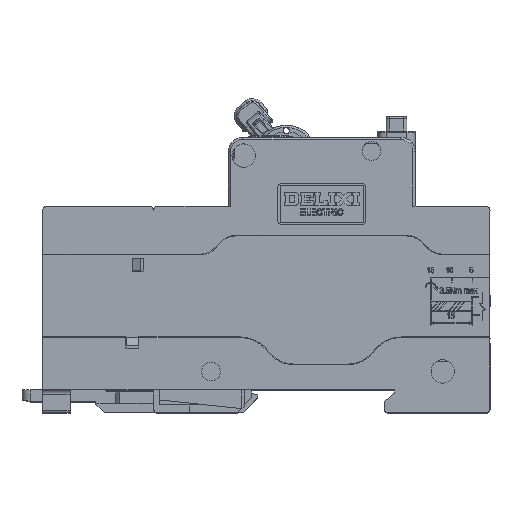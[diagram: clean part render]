
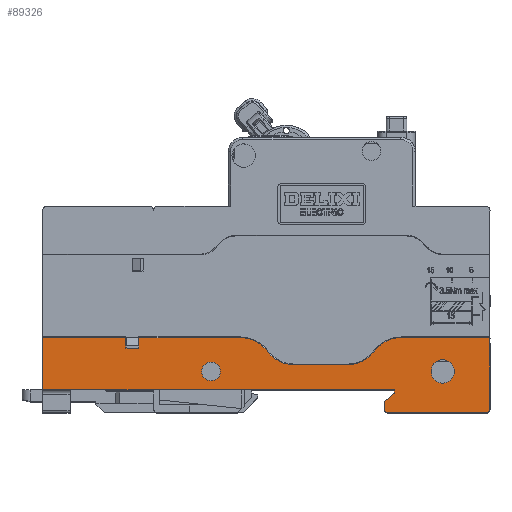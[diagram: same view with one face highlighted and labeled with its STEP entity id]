
A CAD part, top view. The second image highlights one B-rep face of the part: STEP entity #89326.
In plain terms, the highlighted planar face has unit normal (0, 0, 1).
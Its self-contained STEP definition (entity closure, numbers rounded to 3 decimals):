
#5563=DIRECTION('',(0.,-1.,0.));
#5564=VECTOR('',#5563,0.8);
#5565=CARTESIAN_POINT('',(85.367,5.5,0.));
#5566=LINE('',#5565,#5564);
#5583=DIRECTION('',(-1.,0.,0.));
#5584=VECTOR('',#5583,84.2);
#5585=CARTESIAN_POINT('',(85.367,5.5,0.));
#5586=LINE('',#5585,#5584);
#5587=DIRECTION('',(0.,1.,0.));
#5588=VECTOR('',#5587,12.5);
#5589=CARTESIAN_POINT('',(1.167,5.5,0.));
#5590=LINE('',#5589,#5588);
#5591=DIRECTION('',(1.,0.,0.));
#5592=VECTOR('',#5591,19.9);
#5593=CARTESIAN_POINT('',(1.167,18.,0.));
#5594=LINE('',#5593,#5592);
#5595=DIRECTION('',(1.,0.,0.));
#5596=VECTOR('',#5595,24.326);
#5597=CARTESIAN_POINT('',(24.167,18.,0.));
#5598=LINE('',#5597,#5596);
#5599=CARTESIAN_POINT('',(48.493,10.,0.));
#5600=DIRECTION('',(0.,0.,-1.));
#5601=DIRECTION('',(0.,1.,0.));
#5602=AXIS2_PLACEMENT_3D('',#5599,#5600,#5601);
#5604=CARTESIAN_POINT('',(61.367,19.5,0.));
#5605=DIRECTION('',(0.,0.,1.));
#5606=DIRECTION('',(-0.805,-0.594,0.));
#5607=AXIS2_PLACEMENT_3D('',#5604,#5605,#5606);
#5609=DIRECTION('',(1.,0.,0.));
#5610=VECTOR('',#5609,12.726);
#5611=CARTESIAN_POINT('',(61.367,11.5,0.));
#5612=LINE('',#5611,#5610);
#5613=CARTESIAN_POINT('',(74.093,19.5,0.));
#5614=DIRECTION('',(0.,0.,1.));
#5615=DIRECTION('',(0.,-1.,0.));
#5616=AXIS2_PLACEMENT_3D('',#5613,#5614,#5615);
#5618=CARTESIAN_POINT('',(86.967,10.,0.));
#5619=DIRECTION('',(0.,0.,-1.));
#5620=DIRECTION('',(-0.805,0.594,0.));
#5621=AXIS2_PLACEMENT_3D('',#5618,#5619,#5620);
#5623=DIRECTION('',(1.,0.,0.));
#5624=VECTOR('',#5623,21.3);
#5625=CARTESIAN_POINT('',(86.967,18.,0.));
#5626=LINE('',#5625,#5624);
#5627=DIRECTION('',(0.,-1.,0.));
#5628=VECTOR('',#5627,17.);
#5629=CARTESIAN_POINT('',(108.267,18.,0.));
#5630=LINE('',#5629,#5628);
#5631=CARTESIAN_POINT('',(107.267,1.,0.));
#5632=DIRECTION('',(0.,0.,-1.));
#5633=DIRECTION('',(1.,0.,0.));
#5634=AXIS2_PLACEMENT_3D('',#5631,#5632,#5633);
#5636=DIRECTION('',(-1.,0.,0.));
#5637=VECTOR('',#5636,23.3);
#5638=CARTESIAN_POINT('',(107.267,0.,0.));
#5639=LINE('',#5638,#5637);
#5640=CARTESIAN_POINT('',(83.967,1.,0.));
#5641=DIRECTION('',(0.,0.,-1.));
#5642=DIRECTION('',(0.,-1.,0.));
#5643=AXIS2_PLACEMENT_3D('',#5640,#5641,#5642);
#5645=DIRECTION('',(0.,1.,0.));
#5646=VECTOR('',#5645,1.686);
#5647=CARTESIAN_POINT('',(82.967,1.,0.));
#5648=LINE('',#5647,#5646);
#5649=DIRECTION('',(0.766,0.643,0.));
#5650=VECTOR('',#5649,3.133);
#5651=CARTESIAN_POINT('',(82.967,2.686,0.));
#5652=LINE('',#5651,#5650);
#5653=CARTESIAN_POINT('',(96.967,9.9,0.));
#5654=DIRECTION('',(0.,0.,1.));
#5655=DIRECTION('',(1.,0.,0.));
#5656=AXIS2_PLACEMENT_3D('',#5653,#5654,#5655);
#5658=CARTESIAN_POINT('',(96.967,9.9,0.));
#5659=DIRECTION('',(0.,0.,1.));
#5660=DIRECTION('',(-1.,0.,0.));
#5661=AXIS2_PLACEMENT_3D('',#5658,#5659,#5660);
#5663=CARTESIAN_POINT('',(41.467,9.9,0.));
#5664=DIRECTION('',(0.,0.,1.));
#5665=DIRECTION('',(1.,0.,0.));
#5666=AXIS2_PLACEMENT_3D('',#5663,#5664,#5665);
#5668=CARTESIAN_POINT('',(41.467,9.9,0.));
#5669=DIRECTION('',(0.,0.,1.));
#5670=DIRECTION('',(-1.,0.,0.));
#5671=AXIS2_PLACEMENT_3D('',#5668,#5669,#5670);
#25051=DIRECTION('',(0.,-1.,0.));
#25052=VECTOR('',#25051,2.5);
#25053=CARTESIAN_POINT('',(24.167,18.,0.));
#25054=LINE('',#25053,#25052);
#25071=DIRECTION('',(0.,1.,0.));
#25072=VECTOR('',#25071,2.5);
#25073=CARTESIAN_POINT('',(21.067,15.5,0.));
#25074=LINE('',#25073,#25072);
#25095=DIRECTION('',(-1.,0.,0.));
#25096=VECTOR('',#25095,3.1);
#25097=CARTESIAN_POINT('',(24.167,15.5,0.));
#25098=LINE('',#25097,#25096);
#66204=CARTESIAN_POINT('',(48.493,18.,0.));
#66205=CARTESIAN_POINT('',(54.93,14.75,0.));
#66206=VERTEX_POINT('',#66204);
#66207=VERTEX_POINT('',#66205);
#66208=CARTESIAN_POINT('',(61.367,11.5,0.));
#66209=VERTEX_POINT('',#66208);
#66210=CARTESIAN_POINT('',(74.093,11.5,0.));
#66211=VERTEX_POINT('',#66210);
#66212=CARTESIAN_POINT('',(80.53,14.75,0.));
#66213=VERTEX_POINT('',#66212);
#66214=CARTESIAN_POINT('',(86.967,18.,0.));
#66215=VERTEX_POINT('',#66214);
#66216=CARTESIAN_POINT('',(108.267,18.,0.));
#66217=VERTEX_POINT('',#66216);
#66218=CARTESIAN_POINT('',(108.267,1.,0.));
#66219=VERTEX_POINT('',#66218);
#66220=CARTESIAN_POINT('',(107.267,0.,0.));
#66221=VERTEX_POINT('',#66220);
#66222=CARTESIAN_POINT('',(83.967,0.,0.));
#66223=VERTEX_POINT('',#66222);
#66224=CARTESIAN_POINT('',(82.967,1.,0.));
#66225=VERTEX_POINT('',#66224);
#66226=CARTESIAN_POINT('',(82.967,2.686,0.));
#66227=VERTEX_POINT('',#66226);
#66228=CARTESIAN_POINT('',(85.367,4.7,0.));
#66229=VERTEX_POINT('',#66228);
#66230=CARTESIAN_POINT('',(85.367,5.5,0.));
#66231=VERTEX_POINT('',#66230);
#66232=CARTESIAN_POINT('',(99.767,9.9,0.));
#66233=CARTESIAN_POINT('',(94.167,9.9,0.));
#66234=VERTEX_POINT('',#66232);
#66235=VERTEX_POINT('',#66233);
#66236=CARTESIAN_POINT('',(43.717,9.9,0.));
#66237=CARTESIAN_POINT('',(39.217,9.9,0.));
#66238=VERTEX_POINT('',#66236);
#66239=VERTEX_POINT('',#66237);
#68547=CARTESIAN_POINT('',(1.167,5.5,0.));
#68548=VERTEX_POINT('',#68547);
#69001=CARTESIAN_POINT('',(24.167,18.,0.));
#69002=VERTEX_POINT('',#69001);
#69095=CARTESIAN_POINT('',(1.167,18.,0.));
#69096=VERTEX_POINT('',#69095);
#69097=CARTESIAN_POINT('',(21.067,18.,0.));
#69098=VERTEX_POINT('',#69097);
#69099=CARTESIAN_POINT('',(21.067,15.5,0.));
#69100=VERTEX_POINT('',#69099);
#69101=CARTESIAN_POINT('',(24.167,15.5,0.));
#69102=VERTEX_POINT('',#69101);
#89272=CARTESIAN_POINT('',(73.867,58.5,0.));
#89273=DIRECTION('',(0.,0.,1.));
#89274=DIRECTION('',(1.,0.,0.));
#89275=AXIS2_PLACEMENT_3D('',#89272,#89273,#89274);
#89276=PLANE('',#89275);
#89277=ORIENTED_EDGE('',*,*,#84295,.T.);
#89279=ORIENTED_EDGE('',*,*,#89278,.T.);
#89281=ORIENTED_EDGE('',*,*,#89280,.T.);
#89283=ORIENTED_EDGE('',*,*,#89282,.F.);
#89285=ORIENTED_EDGE('',*,*,#89284,.F.);
#89287=ORIENTED_EDGE('',*,*,#89286,.F.);
#89289=ORIENTED_EDGE('',*,*,#89288,.T.);
#89291=ORIENTED_EDGE('',*,*,#89290,.T.);
#89293=ORIENTED_EDGE('',*,*,#89292,.T.);
#89295=ORIENTED_EDGE('',*,*,#89294,.T.);
#89297=ORIENTED_EDGE('',*,*,#89296,.T.);
#89299=ORIENTED_EDGE('',*,*,#89298,.T.);
#89301=ORIENTED_EDGE('',*,*,#89300,.T.);
#89302=ORIENTED_EDGE('',*,*,#89137,.T.);
#89303=ORIENTED_EDGE('',*,*,#89207,.T.);
#89304=ORIENTED_EDGE('',*,*,#89225,.T.);
#89306=ORIENTED_EDGE('',*,*,#89305,.T.);
#89308=ORIENTED_EDGE('',*,*,#89307,.T.);
#89310=ORIENTED_EDGE('',*,*,#89309,.T.);
#89311=ORIENTED_EDGE('',*,*,#89257,.F.);
#89312=EDGE_LOOP('',(#89277,#89279,#89281,#89283,#89285,#89287,#89289,#89291,
#89293,#89295,#89297,#89299,#89301,#89302,#89303,#89304,#89306,#89308,#89310,
#89311));
#89313=FACE_OUTER_BOUND('',#89312,.F.);
#89315=ORIENTED_EDGE('',*,*,#89314,.T.);
#89317=ORIENTED_EDGE('',*,*,#89316,.T.);
#89318=EDGE_LOOP('',(#89315,#89317));
#89319=FACE_BOUND('',#89318,.F.);
#89321=ORIENTED_EDGE('',*,*,#89320,.T.);
#89323=ORIENTED_EDGE('',*,*,#89322,.T.);
#89324=EDGE_LOOP('',(#89321,#89323));
#89325=FACE_BOUND('',#89324,.F.);
#89326=ADVANCED_FACE('',(#89313,#89319,#89325),#89276,.T.);
#5603=CIRCLE('',#5602,8.);
#5608=CIRCLE('',#5607,8.);
#5617=CIRCLE('',#5616,8.);
#5622=CIRCLE('',#5621,8.);
#5635=CIRCLE('',#5634,1.);
#5644=CIRCLE('',#5643,1.);
#5657=CIRCLE('',#5656,2.8);
#5662=CIRCLE('',#5661,2.8);
#5667=CIRCLE('',#5666,2.25);
#5672=CIRCLE('',#5671,2.25);
#84295=EDGE_CURVE('',#66231,#68548,#5586,.T.);
#89137=EDGE_CURVE('',#66217,#66219,#5630,.T.);
#89207=EDGE_CURVE('',#66219,#66221,#5635,.T.);
#89225=EDGE_CURVE('',#66221,#66223,#5639,.T.);
#89257=EDGE_CURVE('',#66231,#66229,#5566,.T.);
#89278=EDGE_CURVE('',#68548,#69096,#5590,.T.);
#89280=EDGE_CURVE('',#69096,#69098,#5594,.T.);
#89282=EDGE_CURVE('',#69100,#69098,#25074,.T.);
#89284=EDGE_CURVE('',#69102,#69100,#25098,.T.);
#89286=EDGE_CURVE('',#69002,#69102,#25054,.T.);
#89288=EDGE_CURVE('',#69002,#66206,#5598,.T.);
#89290=EDGE_CURVE('',#66206,#66207,#5603,.T.);
#89292=EDGE_CURVE('',#66207,#66209,#5608,.T.);
#89294=EDGE_CURVE('',#66209,#66211,#5612,.T.);
#89296=EDGE_CURVE('',#66211,#66213,#5617,.T.);
#89298=EDGE_CURVE('',#66213,#66215,#5622,.T.);
#89300=EDGE_CURVE('',#66215,#66217,#5626,.T.);
#89305=EDGE_CURVE('',#66223,#66225,#5644,.T.);
#89307=EDGE_CURVE('',#66225,#66227,#5648,.T.);
#89309=EDGE_CURVE('',#66227,#66229,#5652,.T.);
#89314=EDGE_CURVE('',#66234,#66235,#5657,.T.);
#89316=EDGE_CURVE('',#66235,#66234,#5662,.T.);
#89320=EDGE_CURVE('',#66238,#66239,#5667,.T.);
#89322=EDGE_CURVE('',#66239,#66238,#5672,.T.);
